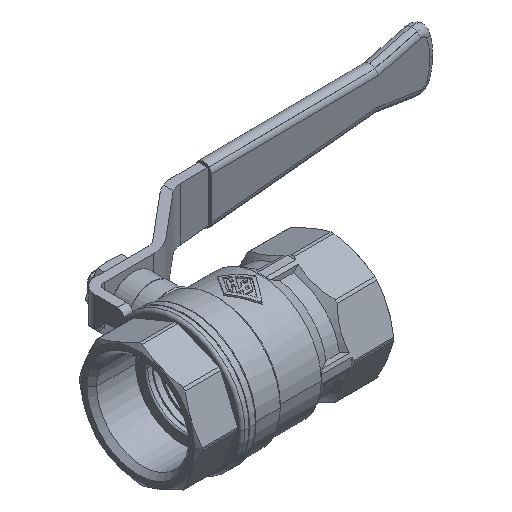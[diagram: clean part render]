
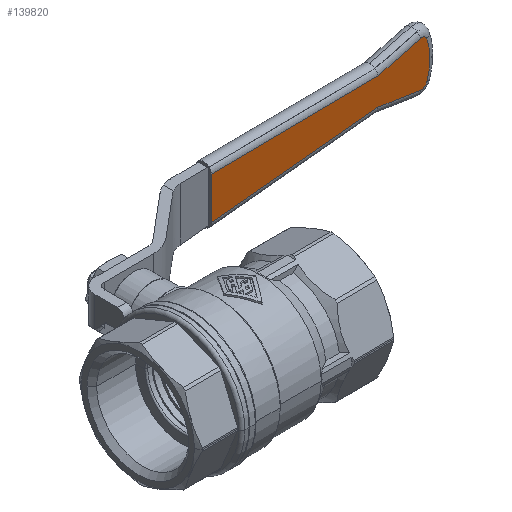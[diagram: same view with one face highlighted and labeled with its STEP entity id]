
A CAD part, isometric view. The second image highlights one B-rep face of the part: STEP entity #139820.
In plain terms, the highlighted planar face has unit normal (0.052, -0.999, 0) as drawn and (-0.052, -0.999, 0) by its records, which use the part's own axes.
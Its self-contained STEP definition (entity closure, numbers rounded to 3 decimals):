
#79210=CARTESIAN_POINT('',(-41.911,50.304,
6.949));
#79220=VERTEX_POINT('',#79210);
#79380=CARTESIAN_POINT('',(-41.911,50.304,
-6.949));
#79390=VERTEX_POINT('',#79380);
#79420=CARTESIAN_POINT('',(-41.911,50.304,
0.));
#79430=DIRECTION('',(0.,0.,-1.));
#79440=VECTOR('',#79430,1.);
#79450=LINE('',#79420,#79440);
#79460=EDGE_CURVE('',#79220,#79390,#79450,.T.);
#119740=CARTESIAN_POINT('',(-118.466,54.316,
0.));
#119750=VERTEX_POINT('',#119740);
#119780=CARTESIAN_POINT('',(-99.991,53.348,
0.));
#119790=DIRECTION('',(0.052,0.999,
0.));
#119800=DIRECTION('',(-0.999,0.052,
0.));
#119810=AXIS2_PLACEMENT_3D('',#119780,#119790,#119800);
#119820=CIRCLE('',#119810,18.5);
#119830=CARTESIAN_POINT('',(-117.42,54.262,
-6.136));
#119840=VERTEX_POINT('',#119830);
#119850=EDGE_CURVE('',#119840,#119750,#119820,.T.);
#139230=CARTESIAN_POINT('',(-41.911,50.304,
0.));
#139240=DIRECTION('',(-0.052,-0.999,
0.));
#139250=DIRECTION('',(0.999,-0.052,
0.));
#139260=AXIS2_PLACEMENT_3D('',#139230,#139240,#139250);
#139270=PLANE('',#139260);
#139280=CARTESIAN_POINT('',(-0.042,48.11,
-8.711));
#139290=DIRECTION('',(0.998,-0.052,
-0.042));
#139300=VECTOR('',#139290,1.);
#139310=LINE('',#139280,#139300);
#139320=CARTESIAN_POINT('',(-100.235,53.361,
-4.494));
#139330=VERTEX_POINT('',#139320);
#139340=EDGE_CURVE('',#139330,#79390,#139310,.T.);
#139350=ORIENTED_EDGE('',*,*,#139340,.T.);
#139360=CARTESIAN_POINT('',(-0.042,48.11,
15.262));
#139370=DIRECTION('',(-0.98,0.051,
-0.193));
#139380=VECTOR('',#139370,1.);
#139390=LINE('',#139360,#139380);
#139400=CARTESIAN_POINT('',(-115.15,54.143,
-7.435));
#139410=VERTEX_POINT('',#139400);
#139420=EDGE_CURVE('',#139330,#139410,#139390,.T.);
#139430=ORIENTED_EDGE('',*,*,#139420,.F.);
#139440=CARTESIAN_POINT('',(-115.536,54.163,
-5.472));
#139450=DIRECTION('',(0.052,0.999,
0.));
#139460=DIRECTION('',(-0.999,0.052,
0.));
#139470=AXIS2_PLACEMENT_3D('',#139440,#139450,#139460);
#139480=CIRCLE('',#139470,2.);
#139490=EDGE_CURVE('',#139410,#119840,#139480,.T.);
#139500=ORIENTED_EDGE('',*,*,#139490,.F.);
#139510=ORIENTED_EDGE('',*,*,#119850,.F.);
#139520=CARTESIAN_POINT('',(-117.42,54.262,
6.136));
#139530=VERTEX_POINT('',#139520);
#139540=EDGE_CURVE('',#119750,#139530,#119820,.T.);
#139550=ORIENTED_EDGE('',*,*,#139540,.F.);
#139560=CARTESIAN_POINT('',(-115.536,54.163,
5.472));
#139570=DIRECTION('',(0.052,0.999,
0.));
#139580=DIRECTION('',(-0.999,0.052,
0.));
#139590=AXIS2_PLACEMENT_3D('',#139560,#139570,#139580);
#139600=CIRCLE('',#139590,2.);
#139610=CARTESIAN_POINT('',(-115.15,54.143,
7.435));
#139620=VERTEX_POINT('',#139610);
#139630=EDGE_CURVE('',#139530,#139620,#139600,.T.);
#139640=ORIENTED_EDGE('',*,*,#139630,.F.);
#139650=CARTESIAN_POINT('',(-0.042,48.11,
-15.262));
#139660=DIRECTION('',(-0.98,0.051,
0.193));
#139670=VECTOR('',#139660,1.);
#139680=LINE('',#139650,#139670);
#139690=CARTESIAN_POINT('',(-100.235,53.361,
4.494));
#139700=VERTEX_POINT('',#139690);
#139710=EDGE_CURVE('',#139700,#139620,#139680,.T.);
#139720=ORIENTED_EDGE('',*,*,#139710,.T.);
#139730=CARTESIAN_POINT('',(-0.042,48.11,
8.711));
#139740=DIRECTION('',(-0.998,0.052,
-0.042));
#139750=VECTOR('',#139740,1.);
#139760=LINE('',#139730,#139750);
#139770=EDGE_CURVE('',#79220,#139700,#139760,.T.);
#139780=ORIENTED_EDGE('',*,*,#139770,.T.);
#139790=ORIENTED_EDGE('',*,*,#79460,.F.);
#139800=EDGE_LOOP('',(#139790,#139780,#139720,#139640,#139550,#139510,
#139500,#139430,#139350));
#139810=FACE_OUTER_BOUND('',#139800,.T.);
#139820=ADVANCED_FACE('',(#139810),#139270,.T.);
